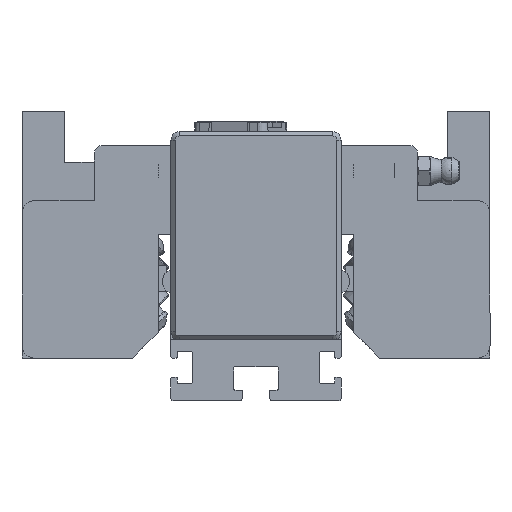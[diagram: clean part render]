
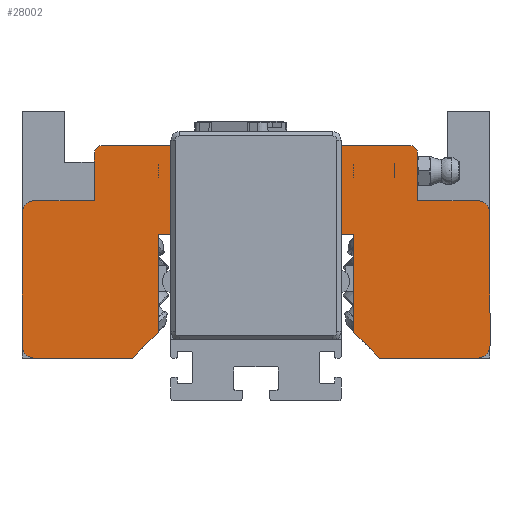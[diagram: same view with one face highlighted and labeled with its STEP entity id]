
A CAD part, left-side view. The second image highlights one B-rep face of the part: STEP entity #28002.
In plain terms, the highlighted planar face has unit normal (-1, 0, 0).
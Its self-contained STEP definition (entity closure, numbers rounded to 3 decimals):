
#1562=CIRCLE('',#30354,2.);
#1563=CIRCLE('',#30355,3.);
#1564=CIRCLE('',#30356,3.);
#1565=CIRCLE('',#30357,7.);
#1566=CIRCLE('',#30358,3.);
#1567=CIRCLE('',#30359,3.);
#1568=CIRCLE('',#30360,2.);
#2490=PLANE('',#30353);
#3826=FACE_OUTER_BOUND('',#5550,.T.);
#5550=EDGE_LOOP('',(#23260,#23261,#23262,#23263,#23264,#23265,#23266,#23267,
#23268,#23269,#23270,#23271,#23272,#23273,#23274,#23275,#23276,#23277,#23278,
#23279,#23280,#23281));
#8273=LINE('',#49847,#10636);
#8274=LINE('',#49849,#10637);
#8275=LINE('',#49853,#10638);
#8276=LINE('',#49857,#10639);
#8277=LINE('',#49859,#10640);
#8278=LINE('',#49861,#10641);
#8279=LINE('',#49863,#10642);
#8280=LINE('',#49867,#10643);
#8281=LINE('',#49869,#10644);
#8282=LINE('',#49871,#10645);
#8283=LINE('',#49873,#10646);
#8284=LINE('',#49877,#10647);
#8285=LINE('',#49881,#10648);
#8286=LINE('',#49883,#10649);
#8287=LINE('',#49886,#10650);
#10636=VECTOR('',#36943,11.);
#10637=VECTOR('',#36944,14.);
#10638=VECTOR('',#36947,31.);
#10639=VECTOR('',#36950,23.);
#10640=VECTOR('',#36951,8.485);
#10641=VECTOR('',#36952,23.);
#10642=VECTOR('',#36953,18.101);
#10643=VECTOR('',#36956,18.101);
#10644=VECTOR('',#36957,23.);
#10645=VECTOR('',#36958,8.485);
#10646=VECTOR('',#36959,23.);
#10647=VECTOR('',#36962,31.);
#10648=VECTOR('',#36965,14.);
#10649=VECTOR('',#36966,11.);
#10650=VECTOR('',#36969,72.);
#13101=VERTEX_POINT('',#49843);
#13102=VERTEX_POINT('',#49844);
#13103=VERTEX_POINT('',#49846);
#13104=VERTEX_POINT('',#49848);
#13105=VERTEX_POINT('',#49850);
#13106=VERTEX_POINT('',#49852);
#13107=VERTEX_POINT('',#49854);
#13108=VERTEX_POINT('',#49856);
#13109=VERTEX_POINT('',#49858);
#13110=VERTEX_POINT('',#49860);
#13111=VERTEX_POINT('',#49862);
#13112=VERTEX_POINT('',#49864);
#13113=VERTEX_POINT('',#49866);
#13114=VERTEX_POINT('',#49868);
#13115=VERTEX_POINT('',#49870);
#13116=VERTEX_POINT('',#49872);
#13117=VERTEX_POINT('',#49874);
#13118=VERTEX_POINT('',#49876);
#13119=VERTEX_POINT('',#49878);
#13120=VERTEX_POINT('',#49880);
#13121=VERTEX_POINT('',#49882);
#13122=VERTEX_POINT('',#49884);
#16635=EDGE_CURVE('',#13101,#13102,#1562,.T.);
#16636=EDGE_CURVE('',#13101,#13103,#8273,.T.);
#16637=EDGE_CURVE('',#13103,#13104,#8274,.T.);
#16638=EDGE_CURVE('',#13105,#13104,#1563,.T.);
#16639=EDGE_CURVE('',#13106,#13105,#8275,.T.);
#16640=EDGE_CURVE('',#13107,#13106,#1564,.T.);
#16641=EDGE_CURVE('',#13108,#13107,#8276,.T.);
#16642=EDGE_CURVE('',#13109,#13108,#8277,.T.);
#16643=EDGE_CURVE('',#13110,#13109,#8278,.T.);
#16644=EDGE_CURVE('',#13111,#13110,#8279,.T.);
#16645=EDGE_CURVE('',#13111,#13112,#1565,.T.);
#16646=EDGE_CURVE('',#13113,#13112,#8280,.T.);
#16647=EDGE_CURVE('',#13113,#13114,#8281,.T.);
#16648=EDGE_CURVE('',#13115,#13114,#8282,.T.);
#16649=EDGE_CURVE('',#13115,#13116,#8283,.T.);
#16650=EDGE_CURVE('',#13117,#13116,#1566,.T.);
#16651=EDGE_CURVE('',#13117,#13118,#8284,.T.);
#16652=EDGE_CURVE('',#13119,#13118,#1567,.T.);
#16653=EDGE_CURVE('',#13119,#13120,#8285,.T.);
#16654=EDGE_CURVE('',#13120,#13121,#8286,.T.);
#16655=EDGE_CURVE('',#13122,#13121,#1568,.T.);
#16656=EDGE_CURVE('',#13102,#13122,#8287,.T.);
#23260=ORIENTED_EDGE('',*,*,#16635,.F.);
#23261=ORIENTED_EDGE('',*,*,#16636,.T.);
#23262=ORIENTED_EDGE('',*,*,#16637,.T.);
#23263=ORIENTED_EDGE('',*,*,#16638,.F.);
#23264=ORIENTED_EDGE('',*,*,#16639,.F.);
#23265=ORIENTED_EDGE('',*,*,#16640,.F.);
#23266=ORIENTED_EDGE('',*,*,#16641,.F.);
#23267=ORIENTED_EDGE('',*,*,#16642,.F.);
#23268=ORIENTED_EDGE('',*,*,#16643,.F.);
#23269=ORIENTED_EDGE('',*,*,#16644,.F.);
#23270=ORIENTED_EDGE('',*,*,#16645,.T.);
#23271=ORIENTED_EDGE('',*,*,#16646,.F.);
#23272=ORIENTED_EDGE('',*,*,#16647,.T.);
#23273=ORIENTED_EDGE('',*,*,#16648,.F.);
#23274=ORIENTED_EDGE('',*,*,#16649,.T.);
#23275=ORIENTED_EDGE('',*,*,#16650,.F.);
#23276=ORIENTED_EDGE('',*,*,#16651,.T.);
#23277=ORIENTED_EDGE('',*,*,#16652,.F.);
#23278=ORIENTED_EDGE('',*,*,#16653,.T.);
#23279=ORIENTED_EDGE('',*,*,#16654,.T.);
#23280=ORIENTED_EDGE('',*,*,#16655,.F.);
#23281=ORIENTED_EDGE('',*,*,#16656,.F.);
#28002=ADVANCED_FACE('',(#3826),#2490,.F.);
#30353=AXIS2_PLACEMENT_3D('',#49842,#36939,#36940);
#30354=AXIS2_PLACEMENT_3D('',#49845,#36941,#36942);
#30355=AXIS2_PLACEMENT_3D('',#49851,#36945,#36946);
#30356=AXIS2_PLACEMENT_3D('',#49855,#36948,#36949);
#30357=AXIS2_PLACEMENT_3D('',#49865,#36954,#36955);
#30358=AXIS2_PLACEMENT_3D('',#49875,#36960,#36961);
#30359=AXIS2_PLACEMENT_3D('',#49879,#36963,#36964);
#30360=AXIS2_PLACEMENT_3D('',#49885,#36967,#36968);
#36939=DIRECTION('center_axis',(1.,0.,0.));
#36940=DIRECTION('ref_axis',(0.,0.,1.));
#36941=DIRECTION('center_axis',(1.,0.,0.));
#36942=DIRECTION('ref_axis',(0.,-0.707,0.707));
#36943=DIRECTION('',(0.,1.,0.));
#36944=DIRECTION('',(0.,0.,1.));
#36945=DIRECTION('center_axis',(1.,0.,0.));
#36946=DIRECTION('ref_axis',(0.,-0.707,0.707));
#36947=DIRECTION('',(0.,-1.,0.));
#36948=DIRECTION('center_axis',(1.,0.,0.));
#36949=DIRECTION('ref_axis',(0.,0.707,0.707));
#36950=DIRECTION('',(0.,0.,1.));
#36951=DIRECTION('',(0.,0.707,0.707));
#36952=DIRECTION('',(0.,1.,0.));
#36953=DIRECTION('',(0.,0.,1.));
#36954=DIRECTION('center_axis',(1.,0.,0.));
#36955=DIRECTION('ref_axis',(0.,0.,
1.));
#36956=DIRECTION('',(0.,0.,1.));
#36957=DIRECTION('',(0.,1.,0.));
#36958=DIRECTION('',(0.,-0.707,0.707));
#36959=DIRECTION('',(0.,0.,-1.));
#36960=DIRECTION('center_axis',(1.,0.,0.));
#36961=DIRECTION('ref_axis',(0.,0.707,-0.707));
#36962=DIRECTION('',(0.,-1.,0.));
#36963=DIRECTION('center_axis',(1.,0.,0.));
#36964=DIRECTION('ref_axis',(0.,-0.707,-0.707));
#36965=DIRECTION('',(0.,0.,1.));
#36966=DIRECTION('',(0.,-1.,0.));
#36967=DIRECTION('center_axis',(1.,0.,0.));
#36968=DIRECTION('ref_axis',(0.,-0.707,-0.707));
#36969=DIRECTION('',(0.,0.,-1.));
#49842=CARTESIAN_POINT('Origin',(-68.235,23.298,37.902));
#49843=CARTESIAN_POINT('',(-68.235,-6.702,36.902));
#49844=CARTESIAN_POINT('',(-68.235,-8.702,34.902));
#49845=CARTESIAN_POINT('Origin',(-68.235,-6.702,34.902));
#49846=CARTESIAN_POINT('',(-68.235,4.298,36.902));
#49847=CARTESIAN_POINT('',(-68.235,7.298,36.902));
#49848=CARTESIAN_POINT('',(-68.235,4.298,50.902));
#49849=CARTESIAN_POINT('',(-68.235,4.298,37.402));
#49850=CARTESIAN_POINT('',(-68.235,7.298,53.902));
#49851=CARTESIAN_POINT('Origin',(-68.235,7.298,50.902));
#49852=CARTESIAN_POINT('',(-68.235,38.298,53.902));
#49853=CARTESIAN_POINT('',(-68.235,41.298,53.902));
#49854=CARTESIAN_POINT('',(-68.235,41.298,50.902));
#49855=CARTESIAN_POINT('Origin',(-68.235,38.298,50.902));
#49856=CARTESIAN_POINT('',(-68.235,41.298,27.902));
#49857=CARTESIAN_POINT('',(-68.235,41.298,21.902));
#49858=CARTESIAN_POINT('',(-68.235,35.298,21.902));
#49859=CARTESIAN_POINT('',(-68.235,37.798,24.402));
#49860=CARTESIAN_POINT('',(-68.235,12.298,21.902));
#49861=CARTESIAN_POINT('',(-68.235,5.298,21.902));
#49862=CARTESIAN_POINT('',(-68.235,12.298,3.801));
#49863=CARTESIAN_POINT('',(-68.235,12.298,-56.098));
#49864=CARTESIAN_POINT('',(-68.235,12.298,-5.997));
#49865=CARTESIAN_POINT('Origin',(-68.235,17.298,-1.098));
#49866=CARTESIAN_POINT('',(-68.235,12.298,-24.098));
#49867=CARTESIAN_POINT('',(-68.235,12.298,-56.098));
#49868=CARTESIAN_POINT('',(-68.235,35.298,-24.098));
#49869=CARTESIAN_POINT('',(-68.235,5.298,-24.098));
#49870=CARTESIAN_POINT('',(-68.235,41.298,-30.098));
#49871=CARTESIAN_POINT('',(-68.235,18.298,-7.098));
#49872=CARTESIAN_POINT('',(-68.235,41.298,-53.098));
#49873=CARTESIAN_POINT('',(-68.235,41.298,-24.098));
#49874=CARTESIAN_POINT('',(-68.235,38.298,-56.098));
#49875=CARTESIAN_POINT('Origin',(-68.235,38.298,-53.098));
#49876=CARTESIAN_POINT('',(-68.235,7.298,-56.098));
#49877=CARTESIAN_POINT('',(-68.235,41.298,-56.098));
#49878=CARTESIAN_POINT('',(-68.235,4.298,-53.098));
#49879=CARTESIAN_POINT('Origin',(-68.235,7.298,-53.098));
#49880=CARTESIAN_POINT('',(-68.235,4.298,-39.098));
#49881=CARTESIAN_POINT('',(-68.235,4.298,-0.598));
#49882=CARTESIAN_POINT('',(-68.235,-6.702,-39.098));
#49883=CARTESIAN_POINT('',(-68.235,7.298,-39.098));
#49884=CARTESIAN_POINT('',(-68.235,-8.702,-37.098));
#49885=CARTESIAN_POINT('Origin',(-68.235,-6.702,-37.098));
#49886=CARTESIAN_POINT('',(-68.235,-8.702,-1.098));
